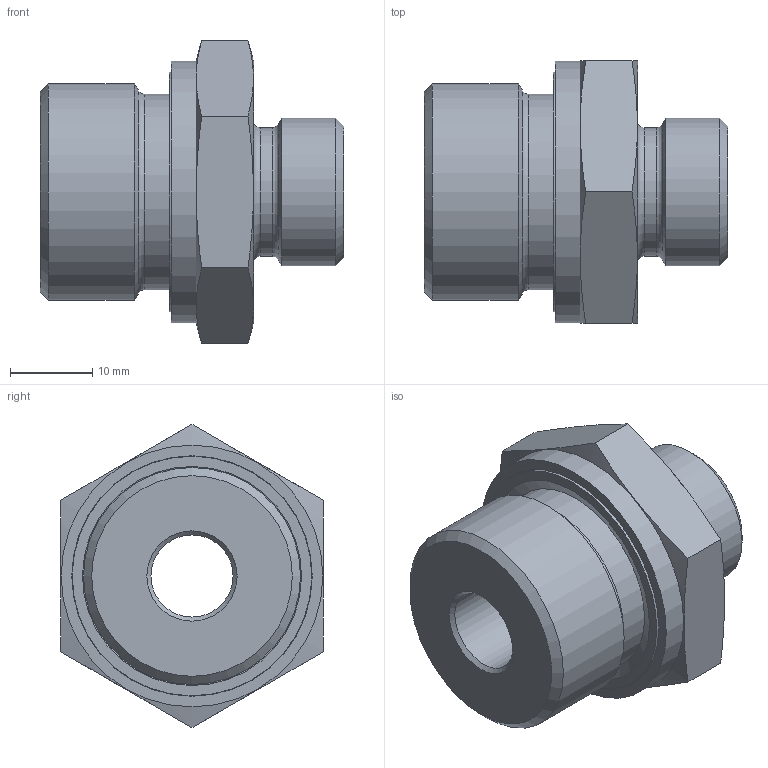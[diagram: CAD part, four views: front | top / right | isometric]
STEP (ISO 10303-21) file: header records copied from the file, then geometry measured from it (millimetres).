
FILE_DESCRIPTION( ( 'Unknown' ), '1' );
FILE_NAME( 'C:/Users/p.nanko/Desktop/3D SR/XGE12LED06.stp', 'Unknown', ( 'Peter Nanko' ), ( 'Armaturen Arndt' ), 'PSStep 14.0', 'Solid Edge ST4', ' ' );
FILE_SCHEMA( ( 'AUTOMOTIVE_DESIGN { 1 0 10303 214 1 1 1 1 }' ) );
Length unit declared in the file: millimetre
Products named in the file (3): Assem1; XGE12LED063; ED06
Assembly tree (2 placements, depth 2):
  Assem1
    XGE12LED063
    ED06
Bounding box: 37 x 32 x 36.95 mm (x, y, z)
Volume: 16231.3 mm3; surface area: 6704.2 mm2
Topology: 2 solids, 2 shells, 37 faces, 74 edges, 45 vertices
Faces by surface type: plane 14, cylinder 10, cone 9, torus 4
Full cylindrical faces by diameter (mm): 10 x1, 12 x1, 15.7 x1, 18 x1, 23.8 x1, 23.9 x1, 26.441 x1, 29.2 x1, 29.3 x1, 31.9 x1
Entity records: 1246 total; most frequent: CARTESIAN_POINT 230, DIRECTION 146, ORIENTED_EDGE 96, AXIS2_PLACEMENT_3D 70, EDGE_LOOP 68, FACE_OUTER_BOUND 51, EDGE_CURVE 48, VERTEX_POINT 42
